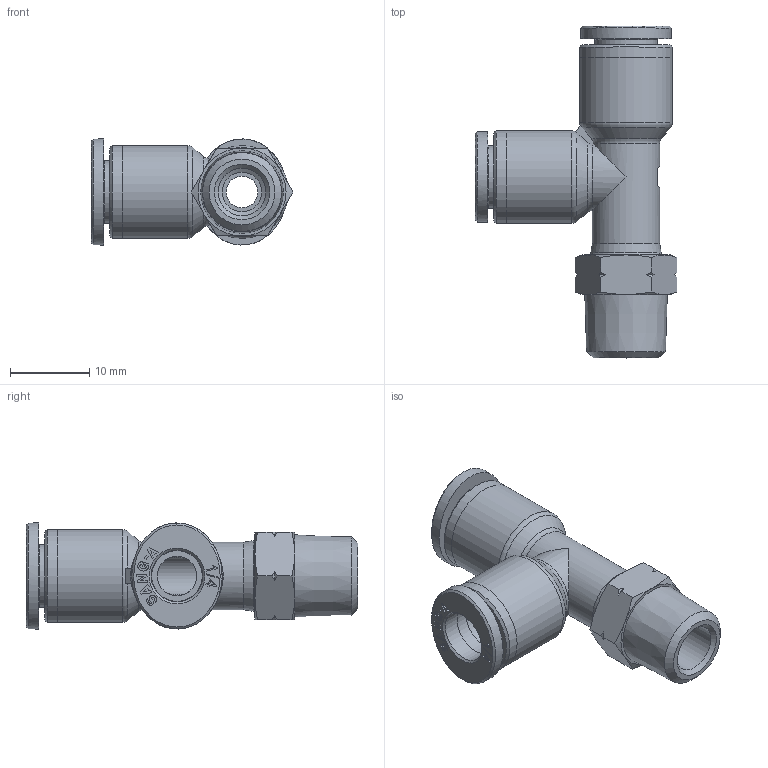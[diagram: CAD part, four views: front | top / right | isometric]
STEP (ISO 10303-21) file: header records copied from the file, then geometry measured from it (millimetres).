
FILE_DESCRIPTION((''),'2;1');
FILE_NAME('C:\Users\user0117\Desktop\김진일\홈페이지\1_4\Internet\GPST 1_4-N01U.stp','2019-09-02T10:07:34',('user0117'),(''),'Autodesk Inventor 2013','Autodesk Inventor 2013','');
FILE_SCHEMA(('AUTOMOTIVE_DESIGN { 1 0 10303 214 1 1 1 1 }'));
Length unit declared in the file: millimetre
Products named in the file (6): GPST 1_4-N01U; GPL BODY 1-4 N01(BRASS); GPST BODY 1-4(PLASTIC); G-COLLAR G1-4L; COLLAR G1-4L; SLEEVE G1-4
Assembly tree (6 placements, depth 3):
  GPST 1_4-N01U
    GPL BODY 1-4 N01(BRASS)
    GPST BODY 1-4(PLASTIC)
    G-COLLAR G1-4L  x2
      COLLAR G1-4L
      SLEEVE G1-4
Bounding box: 25.46 x 41.9 x 13.39 mm (x, y, z)
Volume: 3440.3 mm3; surface area: 4097.3 mm2
Topology: 6 solids, 6 shells, 334 faces, 849 edges, 559 vertices
Faces by surface type: plane 211, bspline 44, cone 39, cylinder 33, torus 5, sphere 2
Full cylindrical faces by diameter (mm): 4 x1, 5 x4, 6 x1, 6.55 x6, 7.85 x2, 8.5 x1, 11.7 x4
Entity records: 6429 total; most frequent: CARTESIAN_POINT 1651, ORIENTED_EDGE 950, DIRECTION 917, EDGE_CURVE 475, VERTEX_POINT 327, AXIS2_PLACEMENT_3D 319, VECTOR 279, LINE 279
